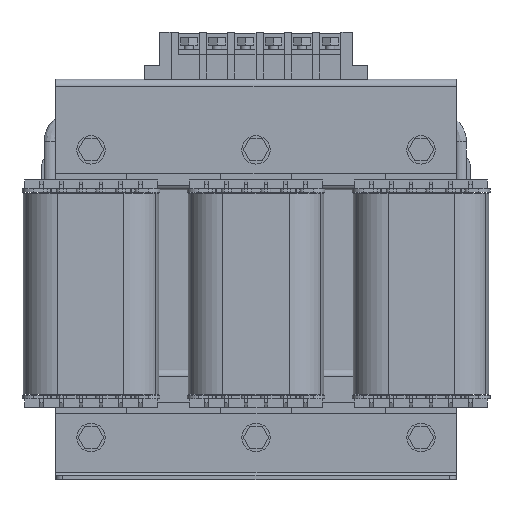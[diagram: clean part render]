
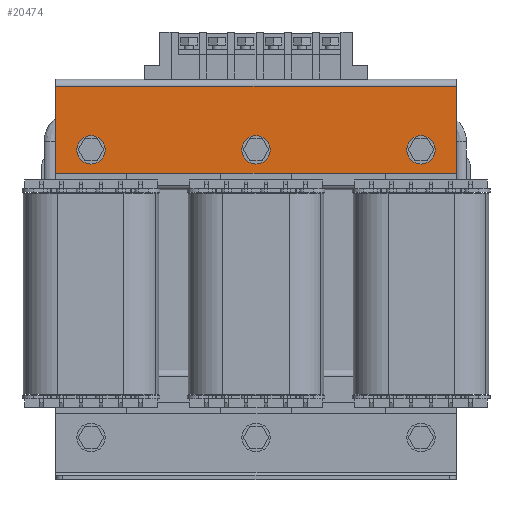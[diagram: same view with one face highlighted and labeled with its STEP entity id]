
A CAD part, front view. The second image highlights one B-rep face of the part: STEP entity #20474.
In plain terms, the highlighted planar face has unit normal (0, -1, 0).
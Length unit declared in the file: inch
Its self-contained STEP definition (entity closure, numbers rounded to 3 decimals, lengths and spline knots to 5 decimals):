
#391 = VERTEX_POINT ( 'NONE', #82561 ) ;
#4148 = CARTESIAN_POINT ( 'NONE',  ( -3.34638, 1.10237, 6.5748 ) ) ;
#7284 = ORIENTED_EDGE ( 'NONE', *, *, #71359, .T. ) ;
#7730 = CARTESIAN_POINT ( 'NONE',  ( 3.34653, 1.10237, 6.5748 ) ) ;
#13028 = LINE ( 'NONE', #43173, #56495 ) ;
#13336 = ORIENTED_EDGE ( 'NONE', *, *, #62043, .T. ) ;
#15991 = LINE ( 'NONE', #91026, #68677 ) ;
#16043 = LINE ( 'NONE', #7730, #53200 ) ;
#16972 = DIRECTION ( 'NONE',  ( 0., 0., -1. ) ) ;
#17970 = VERTEX_POINT ( 'NONE', #75029 ) ;
#20474 = ADVANCED_FACE ( 'NONE', ( #85226 ), #96895, .T. ) ;
#24923 = CARTESIAN_POINT ( 'NONE',  ( 3.34653, 1.10237, 5.11811 ) ) ;
#30804 = CARTESIAN_POINT ( 'NONE',  ( 3.34653, 1.10237, 5.11811 ) ) ;
#36256 = DIRECTION ( 'NONE',  ( 0., -1., 0. ) ) ;
#43173 = CARTESIAN_POINT ( 'NONE',  ( 3.34653, 1.10237, 5.11811 ) ) ;
#51017 = DIRECTION ( 'NONE',  ( 1., 0., 0. ) ) ;
#53200 = VECTOR ( 'NONE', #92060, 39.37008 ) ;
#56495 = VECTOR ( 'NONE', #51017, 39.37008 ) ;
#56528 = DIRECTION ( 'NONE',  ( 0., 0., 1. ) ) ;
#61098 = EDGE_CURVE ( 'NONE', #391, #94695, #13028, .T. ) ;
#62043 = EDGE_CURVE ( 'NONE', #17970, #73541, #16043, .T. ) ;
#62946 = LINE ( 'NONE', #93509, #92333 ) ;
#66751 = EDGE_LOOP ( 'NONE', ( #70999, #68276, #7284, #13336 ) ) ;
#68208 = AXIS2_PLACEMENT_3D ( 'NONE', #30804, #36256, #96399 ) ;
#68276 = ORIENTED_EDGE ( 'NONE', *, *, #61098, .T. ) ;
#68677 = VECTOR ( 'NONE', #16972, 39.37008 ) ;
#70999 = ORIENTED_EDGE ( 'NONE', *, *, #94560, .T. ) ;
#71359 = EDGE_CURVE ( 'NONE', #94695, #17970, #62946, .T. ) ;
#73541 = VERTEX_POINT ( 'NONE', #4148 ) ;
#75029 = CARTESIAN_POINT ( 'NONE',  ( 3.34653, 1.10237, 6.5748 ) ) ;
#82561 = CARTESIAN_POINT ( 'NONE',  ( -3.34638, 1.10237, 5.11811 ) ) ;
#85226 = FACE_OUTER_BOUND ( 'NONE', #66751, .T. ) ;
#91026 = CARTESIAN_POINT ( 'NONE',  ( -3.34638, 1.10237, 5.11811 ) ) ;
#92060 = DIRECTION ( 'NONE',  ( -1., 0., 0. ) ) ;
#92333 = VECTOR ( 'NONE', #56528, 39.37008 ) ;
#93509 = CARTESIAN_POINT ( 'NONE',  ( 3.34653, 1.10237, 5.11811 ) ) ;
#94560 = EDGE_CURVE ( 'NONE', #73541, #391, #15991, .T. ) ;
#94695 = VERTEX_POINT ( 'NONE', #24923 ) ;
#96399 = DIRECTION ( 'NONE',  ( 0., 0., -1. ) ) ;
#96895 = PLANE ( 'NONE',  #68208 ) ;
